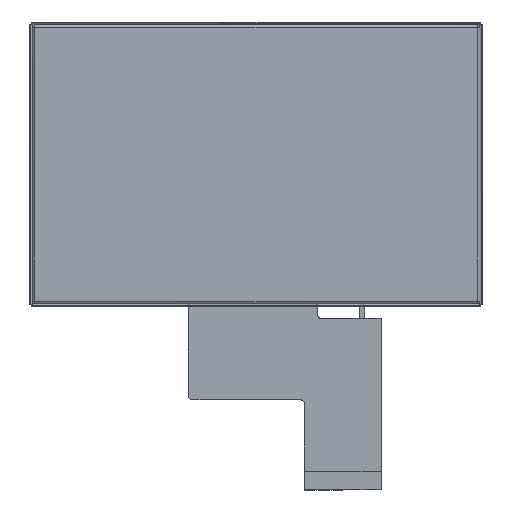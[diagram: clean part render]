
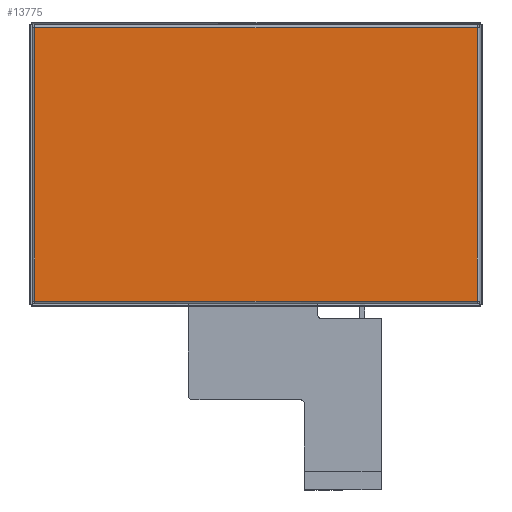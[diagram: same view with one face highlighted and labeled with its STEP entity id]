
A CAD part, top view. The second image highlights one B-rep face of the part: STEP entity #13775.
In plain terms, the highlighted planar face has unit normal (0, 0, 1).
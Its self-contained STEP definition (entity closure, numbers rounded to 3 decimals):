
#905 = VERTEX_POINT ( 'NONE', #27451 ) ;
#1179 = EDGE_CURVE ( 'NONE', #17007, #905, #17118, .T. ) ;
#1409 = EDGE_CURVE ( 'NONE', #18674, #11948, #13587, .T. ) ;
#1927 = DIRECTION ( 'NONE',  ( 1., 0., 0. ) ) ;
#3556 = CARTESIAN_POINT ( 'NONE',  ( 58.85, -36.546, 2.8 ) ) ;
#3816 = VECTOR ( 'NONE', #36346, 1000. ) ;
#4888 = DIRECTION ( 'NONE',  ( 0., -1., 0. ) ) ;
#11083 = CARTESIAN_POINT ( 'NONE',  ( -58.85, 36.546, 2.8 ) ) ;
#11948 = VERTEX_POINT ( 'NONE', #33346 ) ;
#12106 = ORIENTED_EDGE ( 'NONE', *, *, #1179, .T. ) ;
#13587 = LINE ( 'NONE', #3556, #3816 ) ;
#13775 = ADVANCED_FACE ( 'NONE', ( #17809 ), #25061, .T. ) ;
#17007 = VERTEX_POINT ( 'NONE', #33958 ) ;
#17118 = LINE ( 'NONE', #11083, #23584 ) ;
#17809 = FACE_OUTER_BOUND ( 'NONE', #25146, .T. ) ;
#18230 = DIRECTION ( 'NONE',  ( 0., 0., 1. ) ) ;
#18630 = EDGE_CURVE ( 'NONE', #11948, #17007, #30133, .T. ) ;
#18674 = VERTEX_POINT ( 'NONE', #40416 ) ;
#23584 = VECTOR ( 'NONE', #4888, 1000. ) ;
#25061 = PLANE ( 'NONE',  #34387 ) ;
#25146 = EDGE_LOOP ( 'NONE', ( #12106, #40437, #32484, #28744 ) ) ;
#27451 = CARTESIAN_POINT ( 'NONE',  ( -58.85, -36.4, 2.8 ) ) ;
#28077 = CARTESIAN_POINT ( 'NONE',  ( -58.996, -36.4, 2.8 ) ) ;
#28744 = ORIENTED_EDGE ( 'NONE', *, *, #18630, .T. ) ;
#29617 = VECTOR ( 'NONE', #36108, 1000. ) ;
#30133 = LINE ( 'NONE', #39554, #29617 ) ;
#32484 = ORIENTED_EDGE ( 'NONE', *, *, #1409, .T. ) ;
#33346 = CARTESIAN_POINT ( 'NONE',  ( 58.85, 36.4, 2.8 ) ) ;
#33958 = CARTESIAN_POINT ( 'NONE',  ( -58.85, 36.4, 2.8 ) ) ;
#34324 = CARTESIAN_POINT ( 'NONE',  ( 0., 0., 2.8 ) ) ;
#34387 = AXIS2_PLACEMENT_3D ( 'NONE', #34324, #18230, #40778 ) ;
#34501 = LINE ( 'NONE', #28077, #34607 ) ;
#34607 = VECTOR ( 'NONE', #1927, 1000. ) ;
#36108 = DIRECTION ( 'NONE',  ( -1., 0., 0. ) ) ;
#36346 = DIRECTION ( 'NONE',  ( 0., 1., 0. ) ) ;
#36622 = EDGE_CURVE ( 'NONE', #905, #18674, #34501, .T. ) ;
#39554 = CARTESIAN_POINT ( 'NONE',  ( 58.996, 36.4, 2.8 ) ) ;
#40416 = CARTESIAN_POINT ( 'NONE',  ( 58.85, -36.4, 2.8 ) ) ;
#40437 = ORIENTED_EDGE ( 'NONE', *, *, #36622, .T. ) ;
#40778 = DIRECTION ( 'NONE',  ( 1., 0., 0. ) ) ;
